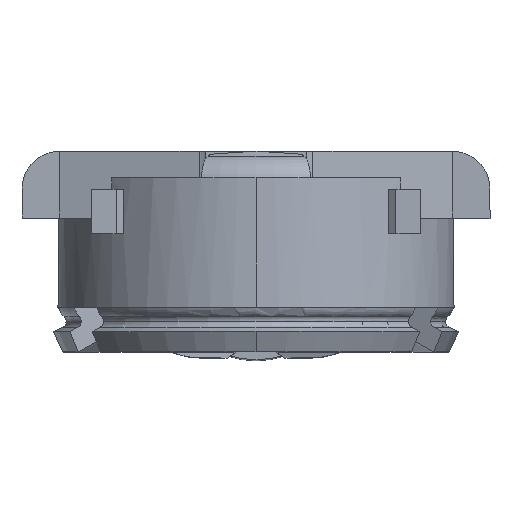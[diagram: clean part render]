
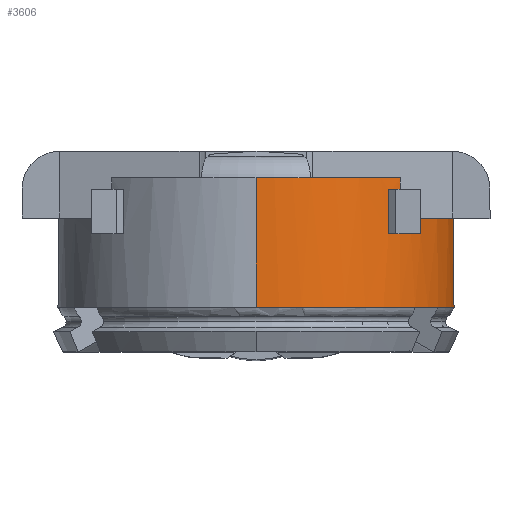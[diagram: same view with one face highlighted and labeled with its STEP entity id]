
A CAD part, top view. The second image highlights one B-rep face of the part: STEP entity #3606.
In plain terms, the highlighted cylindrical face has radius 0.89 mm (diameter 1.78 mm), a partial arc.
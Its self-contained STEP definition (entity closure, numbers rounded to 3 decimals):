
#26 = ORIENTED_EDGE ( 'NONE', *, *, #2496, .F. ) ;
#32 = CARTESIAN_POINT ( 'NONE',  ( 0.516, 0.61, -0.725 ) ) ;
#95 = DIRECTION ( 'NONE',  ( 0., 1., 0. ) ) ;
#248 = VECTOR ( 'NONE', #4993, 1000. ) ;
#313 = LINE ( 'NONE', #4310, #4875 ) ;
#342 = CARTESIAN_POINT ( 'NONE',  ( 0., 1.04, 0.89 ) ) ;
#376 = ORIENTED_EDGE ( 'NONE', *, *, #2085, .F. ) ;
#407 = CARTESIAN_POINT ( 'NONE',  ( 0., 0.51, -0.89 ) ) ;
#572 = DIRECTION ( 'NONE',  ( 0., 1., 0. ) ) ;
#658 = VERTEX_POINT ( 'NONE', #342 ) ;
#667 = VERTEX_POINT ( 'NONE', #1931 ) ;
#795 = EDGE_CURVE ( 'NONE', #2197, #2930, #969, .T. ) ;
#797 = DIRECTION ( 'NONE',  ( 0., -1., 0. ) ) ;
#812 = AXIS2_PLACEMENT_3D ( 'NONE', #930, #4783, #1460 ) ;
#930 = CARTESIAN_POINT ( 'NONE',  ( 0., 0.86, 0. ) ) ;
#943 = DIRECTION ( 'NONE',  ( 0., 1., 0. ) ) ;
#967 = ORIENTED_EDGE ( 'NONE', *, *, #2412, .T. ) ;
#969 = LINE ( 'NONE', #2583, #6710 ) ;
#1156 = ORIENTED_EDGE ( 'NONE', *, *, #6768, .F. ) ;
#1225 = LINE ( 'NONE', #5528, #6995 ) ;
#1423 = CARTESIAN_POINT ( 'NONE',  ( 0., 1.04, 0. ) ) ;
#1459 = DIRECTION ( 'NONE',  ( 0., 1., 0. ) ) ;
#1460 = DIRECTION ( 'NONE',  ( 0., 0., 1. ) ) ;
#1512 = DIRECTION ( 'NONE',  ( 0., 1., 0. ) ) ;
#1529 = DIRECTION ( 'NONE',  ( 0., 0., 1. ) ) ;
#1646 = VERTEX_POINT ( 'NONE', #3684 ) ;
#1785 = ORIENTED_EDGE ( 'NONE', *, *, #3863, .F. ) ;
#1911 = VERTEX_POINT ( 'NONE', #6960 ) ;
#1931 = CARTESIAN_POINT ( 'NONE',  ( 0.647, 0.99, 0.611 ) ) ;
#1969 = DIRECTION ( 'NONE',  ( 0., 0., 1. ) ) ;
#2000 = CARTESIAN_POINT ( 'NONE',  ( 0., 0.61, 0. ) ) ;
#2053 = CARTESIAN_POINT ( 'NONE',  ( 0., 0.46, 0.89 ) ) ;
#2085 = EDGE_CURVE ( 'NONE', #2599, #5995, #6187, .T. ) ;
#2197 = VERTEX_POINT ( 'NONE', #4139 ) ;
#2287 = CIRCLE ( 'NONE', #5270, 0.89 ) ;
#2322 = EDGE_CURVE ( 'NONE', #2197, #3110, #6629, .T. ) ;
#2412 = EDGE_CURVE ( 'NONE', #2697, #2434, #313, .T. ) ;
#2434 = VERTEX_POINT ( 'NONE', #3877 ) ;
#2496 = EDGE_CURVE ( 'NONE', #658, #2599, #6988, .T. ) ;
#2521 = CARTESIAN_POINT ( 'NONE',  ( 0., 0.46, -0.89 ) ) ;
#2559 = CIRCLE ( 'NONE', #4662, 0.89 ) ;
#2572 = DIRECTION ( 'NONE',  ( 0., 0., 1. ) ) ;
#2583 = CARTESIAN_POINT ( 'NONE',  ( 0.516, 1.04, -0.725 ) ) ;
#2599 = VERTEX_POINT ( 'NONE', #5956 ) ;
#2697 = VERTEX_POINT ( 'NONE', #6060 ) ;
#2795 = AXIS2_PLACEMENT_3D ( 'NONE', #5981, #5403, #1529 ) ;
#2930 = VERTEX_POINT ( 'NONE', #32 ) ;
#2999 = FACE_OUTER_BOUND ( 'NONE', #4166, .T. ) ;
#3085 = CIRCLE ( 'NONE', #5399, 0.89 ) ;
#3110 = VERTEX_POINT ( 'NONE', #4578 ) ;
#3174 = LINE ( 'NONE', #5555, #248 ) ;
#3227 = EDGE_CURVE ( 'NONE', #2434, #667, #6404, .T. ) ;
#3376 = DIRECTION ( 'NONE',  ( 0., 0., 1. ) ) ;
#3606 = ADVANCED_FACE ( 'NONE', ( #2999 ), #6927, .T. ) ;
#3684 = CARTESIAN_POINT ( 'NONE',  ( 0.739, 0.79, 0.496 ) ) ;
#3863 = EDGE_CURVE ( 'NONE', #2697, #1646, #2559, .T. ) ;
#3873 = CARTESIAN_POINT ( 'NONE',  ( 0., 0.99, 0. ) ) ;
#3877 = CARTESIAN_POINT ( 'NONE',  ( 0.595, 0.99, 0.662 ) ) ;
#3960 = ORIENTED_EDGE ( 'NONE', *, *, #3227, .T. ) ;
#3990 = ORIENTED_EDGE ( 'NONE', *, *, #4163, .F. ) ;
#4073 = CARTESIAN_POINT ( 'NONE',  ( 0.647, 1.04, 0.611 ) ) ;
#4100 = AXIS2_PLACEMENT_3D ( 'NONE', #3873, #572, #4425 ) ;
#4108 = CARTESIAN_POINT ( 'NONE',  ( 0., 0.46, 0. ) ) ;
#4123 = ORIENTED_EDGE ( 'NONE', *, *, #2322, .T. ) ;
#4139 = CARTESIAN_POINT ( 'NONE',  ( 0.516, 0.86, -0.725 ) ) ;
#4163 = EDGE_CURVE ( 'NONE', #6750, #4801, #2287, .T. ) ;
#4166 = EDGE_LOOP ( 'NONE', ( #3990, #7041, #1156, #5889, #4123, #4849, #1785, #967, #3960, #6066, #376, #26, #6242 ) ) ;
#4233 = DIRECTION ( 'NONE',  ( 0., 1., 0. ) ) ;
#4310 = CARTESIAN_POINT ( 'NONE',  ( 0.595, -2.057, 0.662 ) ) ;
#4317 = EDGE_CURVE ( 'NONE', #4801, #658, #6047, .T. ) ;
#4355 = LINE ( 'NONE', #407, #7166 ) ;
#4425 = DIRECTION ( 'NONE',  ( 0., 0., 1. ) ) ;
#4578 = CARTESIAN_POINT ( 'NONE',  ( 0.739, 0.86, 0.496 ) ) ;
#4649 = DIRECTION ( 'NONE',  ( 0., 0., 1. ) ) ;
#4662 = AXIS2_PLACEMENT_3D ( 'NONE', #4782, #1459, #5335 ) ;
#4782 = CARTESIAN_POINT ( 'NONE',  ( 0., 0.79, 0. ) ) ;
#4783 = DIRECTION ( 'NONE',  ( 0., -1., 0. ) ) ;
#4801 = VERTEX_POINT ( 'NONE', #2053 ) ;
#4849 = ORIENTED_EDGE ( 'NONE', *, *, #5162, .T. ) ;
#4875 = VECTOR ( 'NONE', #1512, 1000. ) ;
#4969 = DIRECTION ( 'NONE',  ( 0., -1., 0. ) ) ;
#4993 = DIRECTION ( 'NONE',  ( 0., 1., 0. ) ) ;
#5162 = EDGE_CURVE ( 'NONE', #3110, #1646, #1225, .T. ) ;
#5270 = AXIS2_PLACEMENT_3D ( 'NONE', #4108, #797, #4649 ) ;
#5296 = DIRECTION ( 'NONE',  ( 0., 1., 0. ) ) ;
#5335 = DIRECTION ( 'NONE',  ( 0., 0., 1. ) ) ;
#5399 = AXIS2_PLACEMENT_3D ( 'NONE', #2000, #5906, #2572 ) ;
#5403 = DIRECTION ( 'NONE',  ( 0., 1., 0. ) ) ;
#5528 = CARTESIAN_POINT ( 'NONE',  ( 0.739, -2.057, 0.496 ) ) ;
#5555 = CARTESIAN_POINT ( 'NONE',  ( 0.647, -2.057, 0.611 ) ) ;
#5583 = EDGE_CURVE ( 'NONE', #6750, #1911, #4355, .T. ) ;
#5673 = VECTOR ( 'NONE', #4233, 1000. ) ;
#5889 = ORIENTED_EDGE ( 'NONE', *, *, #795, .F. ) ;
#5906 = DIRECTION ( 'NONE',  ( 0., 1., 0. ) ) ;
#5956 = CARTESIAN_POINT ( 'NONE',  ( 0.245, 1.04, 0.856 ) ) ;
#5981 = CARTESIAN_POINT ( 'NONE',  ( 0., 1.04, 0. ) ) ;
#5995 = VERTEX_POINT ( 'NONE', #4073 ) ;
#6023 = AXIS2_PLACEMENT_3D ( 'NONE', #1423, #5296, #1969 ) ;
#6047 = LINE ( 'NONE', #7050, #5673 ) ;
#6060 = CARTESIAN_POINT ( 'NONE',  ( 0.595, 0.79, 0.662 ) ) ;
#6066 = ORIENTED_EDGE ( 'NONE', *, *, #7002, .T. ) ;
#6161 = CARTESIAN_POINT ( 'NONE',  ( 0., 0.51, 0. ) ) ;
#6187 = CIRCLE ( 'NONE', #2795, 0.89 ) ;
#6242 = ORIENTED_EDGE ( 'NONE', *, *, #4317, .F. ) ;
#6404 = CIRCLE ( 'NONE', #4100, 0.89 ) ;
#6489 = DIRECTION ( 'NONE',  ( 0., -1., 0. ) ) ;
#6629 = CIRCLE ( 'NONE', #812, 0.89 ) ;
#6700 = AXIS2_PLACEMENT_3D ( 'NONE', #6161, #95, #3376 ) ;
#6710 = VECTOR ( 'NONE', #6489, 1000. ) ;
#6750 = VERTEX_POINT ( 'NONE', #2521 ) ;
#6768 = EDGE_CURVE ( 'NONE', #2930, #1911, #3085, .T. ) ;
#6927 = CYLINDRICAL_SURFACE ( 'NONE', #6700, 0.89 ) ;
#6960 = CARTESIAN_POINT ( 'NONE',  ( 0., 0.61, -0.89 ) ) ;
#6988 = CIRCLE ( 'NONE', #6023, 0.89 ) ;
#6995 = VECTOR ( 'NONE', #4969, 1000. ) ;
#7002 = EDGE_CURVE ( 'NONE', #667, #5995, #3174, .T. ) ;
#7041 = ORIENTED_EDGE ( 'NONE', *, *, #5583, .T. ) ;
#7050 = CARTESIAN_POINT ( 'NONE',  ( 0., 0.51, 0.89 ) ) ;
#7166 = VECTOR ( 'NONE', #943, 1000. ) ;
